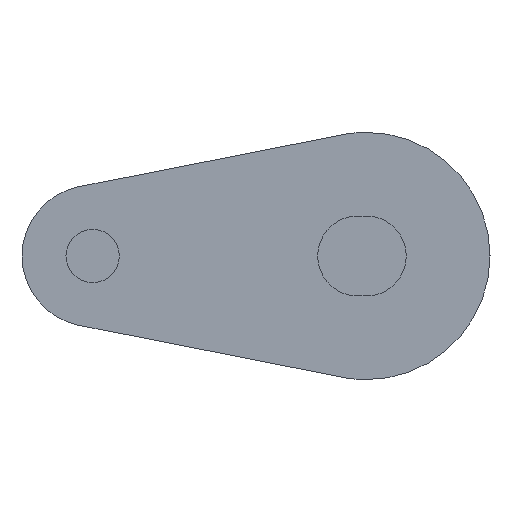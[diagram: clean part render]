
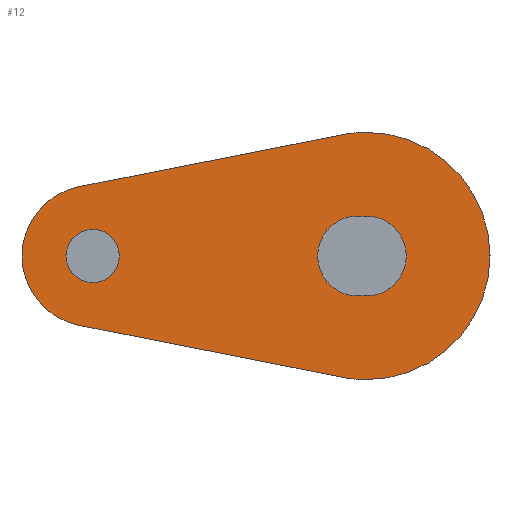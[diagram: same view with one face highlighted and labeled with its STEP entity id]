
A CAD part, left-side view. The second image highlights one B-rep face of the part: STEP entity #12.
In plain terms, the highlighted planar face has unit normal (-1, 0, 0).
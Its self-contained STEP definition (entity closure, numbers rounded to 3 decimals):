
#12 = ADVANCED_FACE ( 'NONE', ( #236, #232, #230 ), #715, .T. ) ;
#50 = CIRCLE ( 'NONE', #572, 7. ) ;
#55 = LINE ( 'NONE', #894, #67 ) ;
#56 = VECTOR ( 'NONE', #903, 1000. ) ;
#59 = LINE ( 'NONE', #905, #56 ) ;
#67 = VECTOR ( 'NONE', #895, 1000. ) ;
#92 = CIRCLE ( 'NONE', #517, 7. ) ;
#96 = CIRCLE ( 'NONE', #492, 2.26 ) ;
#98 = VECTOR ( 'NONE', #856, 1000. ) ;
#119 = LINE ( 'NONE', #832, #98 ) ;
#153 = CIRCLE ( 'NONE', #496, 1.51 ) ;
#164 = CIRCLE ( 'NONE', #485, 2.26 ) ;
#165 = LINE ( 'NONE', #934, #169 ) ;
#169 = VECTOR ( 'NONE', #949, 1000. ) ;
#181 = CIRCLE ( 'NONE', #608, 4. ) ;
#182 = CIRCLE ( 'NONE', #516, 1.51 ) ;
#192 = CIRCLE ( 'NONE', #512, 7. ) ;
#230 = FACE_OUTER_BOUND ( 'NONE', #248, .T. ) ;
#232 = FACE_BOUND ( 'NONE', #247, .T. ) ;
#236 = FACE_BOUND ( 'NONE', #246, .T. ) ;
#246 = EDGE_LOOP ( 'NONE', ( #386, #387, #388, #439 ) ) ;
#247 = EDGE_LOOP ( 'NONE', ( #324, #323 ) ) ;
#248 = EDGE_LOOP ( 'NONE', ( #384, #396, #395, #383, #447, #391 ) ) ;
#323 = ORIENTED_EDGE ( 'NONE', *, *, #555, .T. ) ;
#324 = ORIENTED_EDGE ( 'NONE', *, *, #577, .T. ) ;
#383 = ORIENTED_EDGE ( 'NONE', *, *, #540, .F. ) ;
#384 = ORIENTED_EDGE ( 'NONE', *, *, #578, .F. ) ;
#386 = ORIENTED_EDGE ( 'NONE', *, *, #562, .T. ) ;
#387 = ORIENTED_EDGE ( 'NONE', *, *, #567, .T. ) ;
#388 = ORIENTED_EDGE ( 'NONE', *, *, #468, .T. ) ;
#391 = ORIENTED_EDGE ( 'NONE', *, *, #542, .F. ) ;
#395 = ORIENTED_EDGE ( 'NONE', *, *, #471, .F. ) ;
#396 = ORIENTED_EDGE ( 'NONE', *, *, #466, .F. ) ;
#439 = ORIENTED_EDGE ( 'NONE', *, *, #536, .T. ) ;
#447 = ORIENTED_EDGE ( 'NONE', *, *, #589, .F. ) ;
#466 = EDGE_CURVE ( 'NONE', #671, #686, #119, .T. ) ;
#468 = EDGE_CURVE ( 'NONE', #669, #648, #96, .T. ) ;
#471 = EDGE_CURVE ( 'NONE', #660, #671, #92, .T. ) ;
#485 = AXIS2_PLACEMENT_3D ( 'NONE', #933, #932, #958 ) ;
#492 = AXIS2_PLACEMENT_3D ( 'NONE', #857, #858, #859 ) ;
#496 = AXIS2_PLACEMENT_3D ( 'NONE', #911, #924, #925 ) ;
#512 = AXIS2_PLACEMENT_3D ( 'NONE', #982, #1003, #1002 ) ;
#516 = AXIS2_PLACEMENT_3D ( 'NONE', #959, #969, #968 ) ;
#517 = AXIS2_PLACEMENT_3D ( 'NONE', #803, #829, #828 ) ;
#536 = EDGE_CURVE ( 'NONE', #648, #651, #59, .T. ) ;
#540 = EDGE_CURVE ( 'NONE', #628, #660, #50, .T. ) ;
#542 = EDGE_CURVE ( 'NONE', #726, #662, #55, .T. ) ;
#555 = EDGE_CURVE ( 'NONE', #633, #689, #153, .T. ) ;
#562 = EDGE_CURVE ( 'NONE', #651, #670, #164, .T. ) ;
#567 = EDGE_CURVE ( 'NONE', #670, #669, #165, .T. ) ;
#572 = AXIS2_PLACEMENT_3D ( 'NONE', #899, #897, #893 ) ;
#577 = EDGE_CURVE ( 'NONE', #689, #633, #182, .T. ) ;
#578 = EDGE_CURVE ( 'NONE', #686, #726, #181, .T. ) ;
#589 = EDGE_CURVE ( 'NONE', #662, #628, #192, .T. ) ;
#601 = AXIS2_PLACEMENT_3D ( 'NONE', #704, #703, #702 ) ;
#608 = AXIS2_PLACEMENT_3D ( 'NONE', #967, #970, #972 ) ;
#628 = VERTEX_POINT ( 'NONE', #1027 ) ;
#633 = VERTEX_POINT ( 'NONE', #1014 ) ;
#648 = VERTEX_POINT ( 'NONE', #1019 ) ;
#651 = VERTEX_POINT ( 'NONE', #1020 ) ;
#660 = VERTEX_POINT ( 'NONE', #1035 ) ;
#662 = VERTEX_POINT ( 'NONE', #1037 ) ;
#669 = VERTEX_POINT ( 'NONE', #1038 ) ;
#670 = VERTEX_POINT ( 'NONE', #1039 ) ;
#671 = VERTEX_POINT ( 'NONE', #1070 ) ;
#686 = VERTEX_POINT ( 'NONE', #1063 ) ;
#689 = VERTEX_POINT ( 'NONE', #1060 ) ;
#702 = DIRECTION ( 'NONE',  ( 0., 0., -1. ) ) ;
#703 = DIRECTION ( 'NONE',  ( -1., 0., 0. ) ) ;
#704 = CARTESIAN_POINT ( 'NONE',  ( -454.5, 15.5, 0. ) ) ;
#715 = PLANE ( 'NONE',  #601 ) ;
#726 = VERTEX_POINT ( 'NONE', #1053 ) ;
#803 = CARTESIAN_POINT ( 'NONE',  ( -454.5, 0., 0. ) ) ;
#828 = DIRECTION ( 'NONE',  ( 0., 0., -1. ) ) ;
#829 = DIRECTION ( 'NONE',  ( 1., 0., 0. ) ) ;
#832 = CARTESIAN_POINT ( 'NONE',  ( -454.5, 1.355, -6.868 ) ) ;
#856 = DIRECTION ( 'NONE',  ( 0., 0.981, 0.194 ) ) ;
#857 = CARTESIAN_POINT ( 'NONE',  ( -454.5, 0., 0. ) ) ;
#858 = DIRECTION ( 'NONE',  ( 1., 0., 0. ) ) ;
#859 = DIRECTION ( 'NONE',  ( 0., 0., -1. ) ) ;
#893 = DIRECTION ( 'NONE',  ( 0., 0., -1. ) ) ;
#894 = CARTESIAN_POINT ( 'NONE',  ( -454.5, 16.274, 3.924 ) ) ;
#895 = DIRECTION ( 'NONE',  ( 0., -0.981, 0.194 ) ) ;
#897 = DIRECTION ( 'NONE',  ( 1., 0., 0. ) ) ;
#899 = CARTESIAN_POINT ( 'NONE',  ( -454.5, 0., 0. ) ) ;
#903 = DIRECTION ( 'NONE',  ( 0., 1., 0. ) ) ;
#905 = CARTESIAN_POINT ( 'NONE',  ( -454.5, 0.5, -2.26 ) ) ;
#911 = CARTESIAN_POINT ( 'NONE',  ( -454.5, 15.5, 0. ) ) ;
#924 = DIRECTION ( 'NONE',  ( 1., 0., 0. ) ) ;
#925 = DIRECTION ( 'NONE',  ( 0., 0., -1. ) ) ;
#932 = DIRECTION ( 'NONE',  ( 1., 0., 0. ) ) ;
#933 = CARTESIAN_POINT ( 'NONE',  ( -454.5, 0.5, 0. ) ) ;
#934 = CARTESIAN_POINT ( 'NONE',  ( -454.5, 0.5, 2.26 ) ) ;
#949 = DIRECTION ( 'NONE',  ( 0., -1., 0. ) ) ;
#958 = DIRECTION ( 'NONE',  ( 0., 0., -1. ) ) ;
#959 = CARTESIAN_POINT ( 'NONE',  ( -454.5, 15.5, 0. ) ) ;
#967 = CARTESIAN_POINT ( 'NONE',  ( -454.5, 15.5, 0. ) ) ;
#968 = DIRECTION ( 'NONE',  ( 0., 0., -1. ) ) ;
#969 = DIRECTION ( 'NONE',  ( 1., 0., 0. ) ) ;
#970 = DIRECTION ( 'NONE',  ( 1., 0., 0. ) ) ;
#972 = DIRECTION ( 'NONE',  ( 0., 0., -1. ) ) ;
#982 = CARTESIAN_POINT ( 'NONE',  ( -454.5, 0., 0. ) ) ;
#1002 = DIRECTION ( 'NONE',  ( 0., 0., -1. ) ) ;
#1003 = DIRECTION ( 'NONE',  ( 1., 0., 0. ) ) ;
#1014 = CARTESIAN_POINT ( 'NONE',  ( -454.5, 15.5, 1.51 ) ) ;
#1019 = CARTESIAN_POINT ( 'NONE',  ( -454.5, 0., -2.26 ) ) ;
#1020 = CARTESIAN_POINT ( 'NONE',  ( -454.5, 0.5, -2.26 ) ) ;
#1027 = CARTESIAN_POINT ( 'NONE',  ( -454.5, 0., 7. ) ) ;
#1035 = CARTESIAN_POINT ( 'NONE',  ( -454.5, 0., -7. ) ) ;
#1037 = CARTESIAN_POINT ( 'NONE',  ( -454.5, 1.355, 6.868 ) ) ;
#1038 = CARTESIAN_POINT ( 'NONE',  ( -454.5, 0., 2.26 ) ) ;
#1039 = CARTESIAN_POINT ( 'NONE',  ( -454.5, 0.5, 2.26 ) ) ;
#1053 = CARTESIAN_POINT ( 'NONE',  ( -454.5, 16.274, 3.924 ) ) ;
#1060 = CARTESIAN_POINT ( 'NONE',  ( -454.5, 15.5, -1.51 ) ) ;
#1063 = CARTESIAN_POINT ( 'NONE',  ( -454.5, 16.274, -3.924 ) ) ;
#1070 = CARTESIAN_POINT ( 'NONE',  ( -454.5, 1.355, -6.868 ) ) ;
